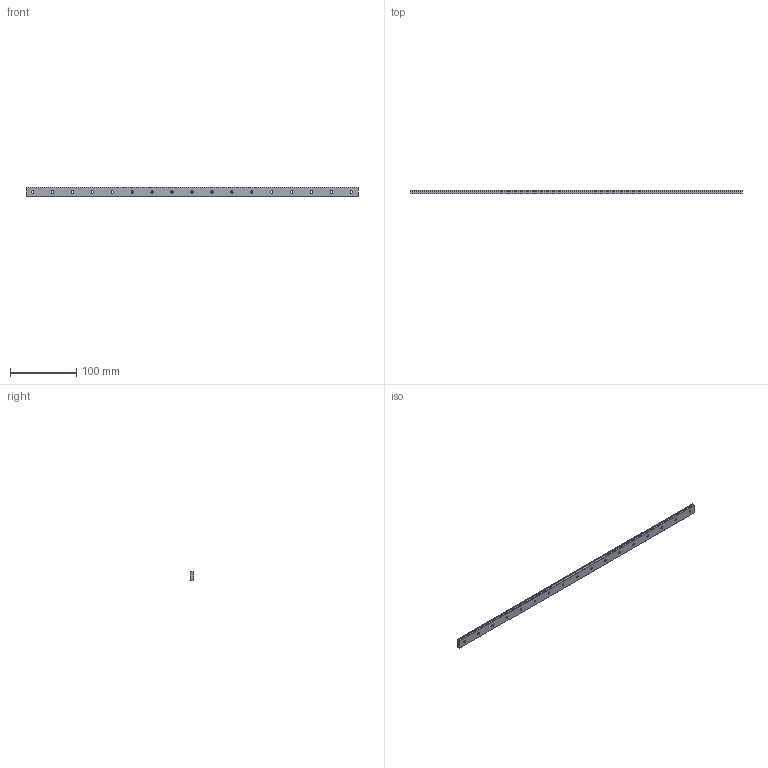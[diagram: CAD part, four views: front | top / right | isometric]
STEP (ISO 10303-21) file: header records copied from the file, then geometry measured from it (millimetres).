
FILE_DESCRIPTION(/* description */ ('STEP AP214'),/* implementation_level */ '2;1');
FILE_NAME(/* name */ 'SRS7W-500LM(GK) RAIL(10)',/* time_stamp */ '2023-06-01T09:57:02+02:00',/* author */ ('License CC BY-ND 4.0'),/* organization */ ('CADENAS'),/* preprocessor_version */ 'ST-DEVELOPER v19.3',/* originating_system */ 'PARTsolutions',/* authorisation */ ' ');
FILE_SCHEMA (('AUTOMOTIVE_DESIGN {1 0 10303 214 3 1 1}'));
Length unit declared in the file: millimetre
Products named in the file (1): SRS7W-500LM(GK) RAIL(10)
Bounding box: 500 x 5.2 x 14 mm (x, y, z)
Volume: 33978.6 mm3; surface area: 20379.9 mm2
Topology: 1 solids, 1 shells, 69 faces, 150 edges, 100 vertices
Faces by surface type: cylinder 40, plane 29
Full cylindrical faces by diameter (mm): 3.5 x17, 6 x17
Entity records: 1852 total; most frequent: DIRECTION 336, CARTESIAN_POINT 286, ORIENTED_EDGE 232, EDGE_LOOP 154, FACE_BOUND 154, AXIS2_PLACEMENT_3D 150, EDGE_CURVE 116, VERTEX_POINT 100
